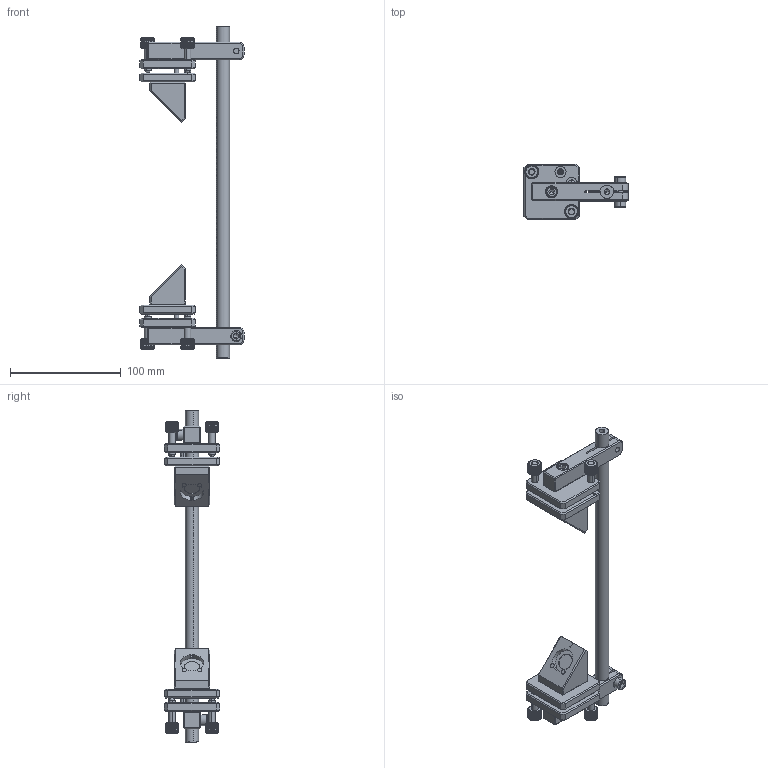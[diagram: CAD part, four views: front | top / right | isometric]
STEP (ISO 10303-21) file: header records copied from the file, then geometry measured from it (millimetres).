
FILE_DESCRIPTION (( 'STEP AP203' ), '1' );
FILE_NAME ('HGMMS120.STEP', '2021-01-20T06:53:05', ( 'yunke' ), ( '' ), 'SwSTEP 2.0', 'SolidWorks 2020', '' );
FILE_SCHEMA (( 'CONFIG_CONTROL_DESIGN' ));
Length unit declared in the file: millimetre
Products named in the file (18): HGMP2300 盓傅裝; HGMMS120-4 光束转折架反光板; hexagon socket head cap screws gb_GB_FASTENER_SCREWS_HSHCS M6X12-N; hex socket set screws with flat point gb_GB_FASTENER_SCREWS_HSFP M4X5-N; 幗紩 耳6; HGMMS120-5 光束转折架镜片固定柱; 幗紩 耳4; hexagon socket head cap screws gb_GB_FASTENER_SCREWS_HSHCS M3X8-N; 鼠蚚蟀諉璃-肣秶; M6x0.25-20-30 蹟恇裝; HGMMS120; hexagon socket head cap screws gb_GB_FASTENER_SCREWS_HSHCS M6X16-N; cross recessed pan head screws gb_GB_CROSS_SCREWS_TYPE1 M3X6-6  H type-N; HGMMS120-2 光束转折架活动版; HGMMS120-1 光束转折架固定板; D12.5d6M3 幗豪忒謫; hex socket set screws with cone point gb_GB_FASTENER_SCREWS_HSCP M3X3-N; HGMMS120-3 光束转折架调节板
Assembly tree (57 placements, depth 2):
  HGMMS120
    HGMMS120-1 光束转折架固定板  x2
    HGMMS120-2 光束转折架活动版  x2
    HGMP2300 盓傅裝
    HGMMS120-3 光束转折架调节板  x2
    HGMMS120-4 光束转折架反光板  x2
    hexagon socket head cap screws gb_GB_FASTENER_SCREWS_HSHCS M6X12-N  x2
    hex socket set screws with flat point gb_GB_FASTENER_SCREWS_HSFP M4X5-N  x2
    hexagon socket head cap screws gb_GB_FASTENER_SCREWS_HSHCS M6X16-N  x2
    hexagon socket head cap screws gb_GB_FASTENER_SCREWS_HSHCS M3X8-N  x8
    鼠蚚蟀諉璃-肣秶  x4
    cross recessed pan head screws gb_GB_CROSS_SCREWS_TYPE1 M3X6-6  H type-N  x8
    HGMMS120-5 光束转折架镜片固定柱  x4
    M6x0.25-20-30 蹟恇裝  x4
    D12.5d6M3 幗豪忒謫  x4
    幗紩 耳6  x2
    幗紩 耳4  x4
    hex socket set screws with cone point gb_GB_FASTENER_SCREWS_HSCP M3X3-N  x4
Bounding box: 94 x 50 x 300 mm (x, y, z)
Volume: 198086.5 mm3; surface area: 79520.3 mm2
Topology: 57 solids, 57 shells, 2024 faces, 5298 edges, 3370 vertices
Faces by surface type: plane 1198, cylinder 608, cone 162, sphere 32, torus 24
Entity records: 21519 total; most frequent: CARTESIAN_POINT 4170, ORIENTED_EDGE 3000, DIRECTION 2974, EDGE_CURVE 1500, AXIS2_PLACEMENT_3D 1120, VERTEX_POINT 959, VECTOR 734, LINE 734
